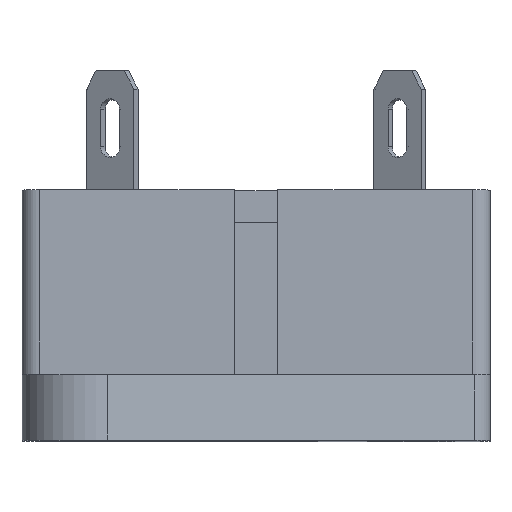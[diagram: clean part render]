
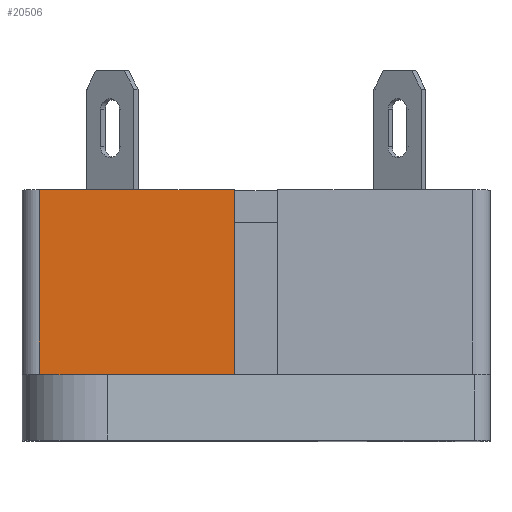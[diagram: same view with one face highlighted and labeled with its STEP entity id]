
A CAD part, top view. The second image highlights one B-rep face of the part: STEP entity #20506.
In plain terms, the highlighted planar face has unit normal (0, 0, 1).
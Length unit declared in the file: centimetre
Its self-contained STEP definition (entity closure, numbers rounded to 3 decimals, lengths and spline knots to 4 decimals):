
#1844=FACE_OUTER_BOUND('',#2868,.T.);
#2868=EDGE_LOOP('',(#18524,#18525,#18526,#18527));
#5117=LINE('',#31961,#7707);
#5455=LINE('',#32719,#8045);
#5456=LINE('',#32722,#8046);
#5457=LINE('',#32723,#8047);
#7707=VECTOR('',#26051,0.895);
#8045=VECTOR('',#26889,0.85);
#8046=VECTOR('',#26892,0.895);
#8047=VECTOR('',#26893,0.85);
#9821=VERTEX_POINT('',#31958);
#9822=VERTEX_POINT('',#31960);
#9992=VERTEX_POINT('',#32717);
#9993=VERTEX_POINT('',#32721);
#12505=EDGE_CURVE('',#9821,#9822,#5117,.T.);
#12899=EDGE_CURVE('',#9992,#9821,#5455,.T.);
#12900=EDGE_CURVE('',#9992,#9993,#5456,.T.);
#12901=EDGE_CURVE('',#9993,#9822,#5457,.T.);
#18524=ORIENTED_EDGE('',*,*,#12899,.F.);
#18525=ORIENTED_EDGE('',*,*,#12900,.T.);
#18526=ORIENTED_EDGE('',*,*,#12901,.T.);
#18527=ORIENTED_EDGE('',*,*,#12505,.F.);
#19560=PLANE('',#21806);
#20506=ADVANCED_FACE('',(#1844),#19560,.F.);
#21806=AXIS2_PLACEMENT_3D('',#32720,#26890,#26891);
#26051=DIRECTION('',(1.,0.,0.));
#26889=DIRECTION('',(0.,1.,0.));
#26890=DIRECTION('center_axis',(0.,0.,-1.));
#26891=DIRECTION('ref_axis',(1.,0.,0.));
#26892=DIRECTION('',(1.,0.,0.));
#26893=DIRECTION('',(0.,1.,0.));
#31958=CARTESIAN_POINT('',(-3.2677,1.413,1.275));
#31960=CARTESIAN_POINT('',(-2.3727,1.413,1.275));
#31961=CARTESIAN_POINT('',(-2.8102,1.413,1.275));
#32717=CARTESIAN_POINT('',(-3.2677,0.563,1.275));
#32719=CARTESIAN_POINT('',(-3.2677,0.838,1.275));
#32720=CARTESIAN_POINT('Origin',(-3.3477,1.413,1.275));
#32721=CARTESIAN_POINT('',(-2.3727,0.563,1.275));
#32722=CARTESIAN_POINT('',(-3.3477,0.563,1.275));
#32723=CARTESIAN_POINT('',(-2.3727,1.413,1.275));
